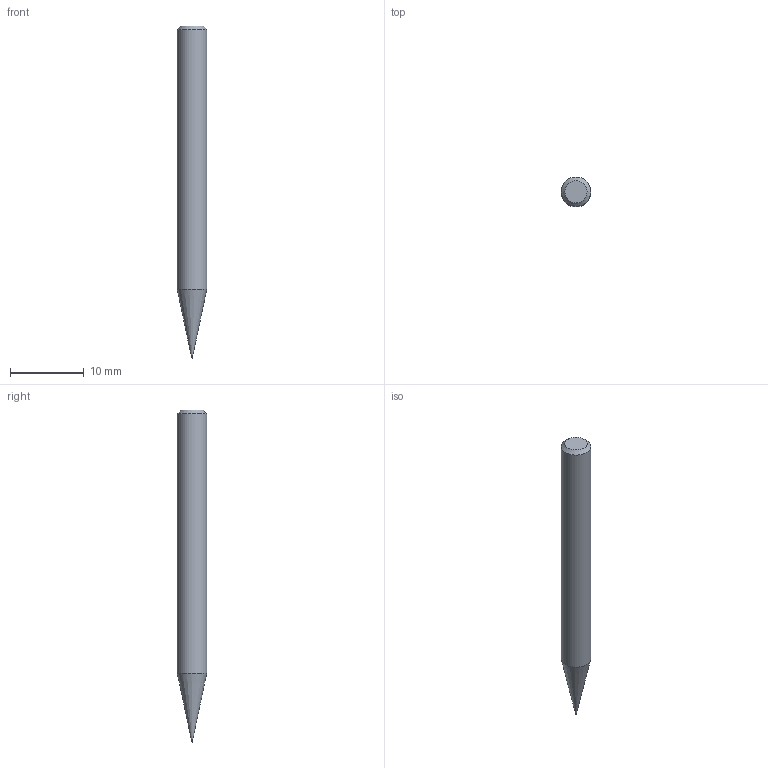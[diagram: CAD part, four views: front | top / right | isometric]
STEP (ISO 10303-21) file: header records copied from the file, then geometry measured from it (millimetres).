
FILE_DESCRIPTION((''),'2;1');
FILE_NAME('C:\Users\nsx150\AppData\Local\Temp\Mastercam 2021\ARV7HD45SN\TEMP.step','2023-06-13T16:31:53',(''),(''),'STEP Write','Mastercam 2021 ... CNC Software, Inc.','');
FILE_SCHEMA(('AUTOMOTIVE_DESIGN'));
Length unit declared in the file: millimetre
Products named in the file (1): None
Bounding box: 4 x 4 x 45 mm (x, y, z)
Volume: 486.8 mm3; surface area: 517.9 mm2
Topology: 2 solids, 2 shells, 9 faces, 14 edges, 8 vertices
Faces by surface type: plane 3, cylinder 3, cone 2, sphere 1
Full cylindrical faces by diameter (mm): 0.18 x1, 0.2 x1, 4 x1
Entity records: 211 total; most frequent: DIRECTION 36, CARTESIAN_POINT 25, AXIS2_PLACEMENT_3D 18, ORIENTED_EDGE 14, EDGE_LOOP 14, STYLED_ITEM 12, ADVANCED_FACE 9, FACE_BOUND 8
